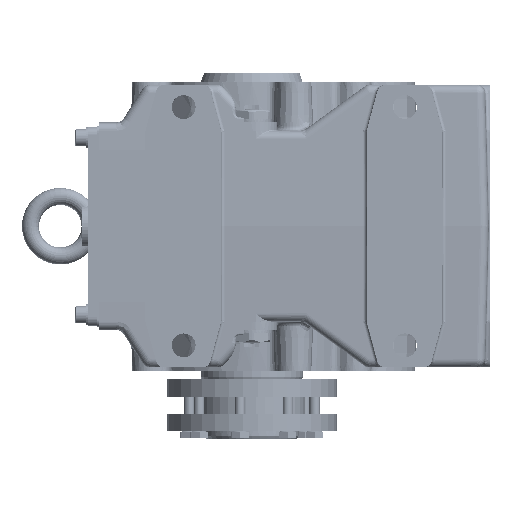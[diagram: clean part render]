
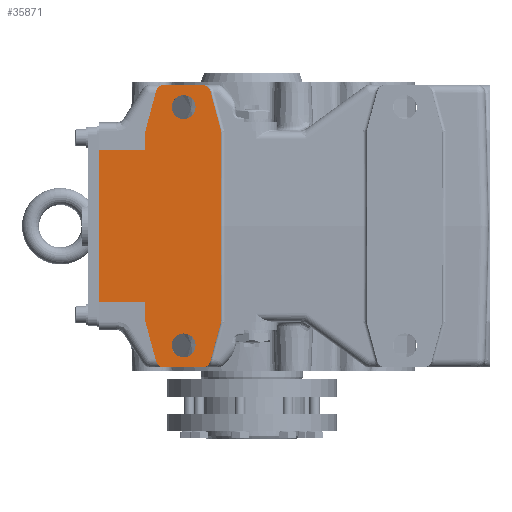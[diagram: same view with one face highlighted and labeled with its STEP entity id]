
A CAD part, left-side view. The second image highlights one B-rep face of the part: STEP entity #35871.
In plain terms, the highlighted planar face has unit normal (-1, 0, 0).
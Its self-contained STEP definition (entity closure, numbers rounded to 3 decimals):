
#23155=CARTESIAN_POINT('',(-90.0,90.0,-44.812));
#23156=VERTEX_POINT('',#23155);
#23163=CARTESIAN_POINT('',(-90.0,90.0,44.812));
#23164=VERTEX_POINT('',#23163);
#23165=CARTESIAN_POINT('',(-90.,90.0,44.812));
#23166=DIRECTION('',(0.0,0.0,-1.0));
#23167=VECTOR('',#23166,89.623);
#23168=LINE('',#23165,#23167);
#23169=EDGE_CURVE('',#23164,#23156,#23168,.T.);
#25421=CARTESIAN_POINT('',(-90.,40.0,-63.0));
#25422=VERTEX_POINT('',#25421);
#25423=CARTESIAN_POINT('',(-90.,40.0,-70.0));
#25424=DIRECTION('',(1.0,0.0,0.0));
#25425=DIRECTION('',(0.0,0.0,1.0));
#25426=AXIS2_PLACEMENT_3D('',#25423,#25424,#25425);
#25427=CIRCLE('',#25426,7.);
#25428=EDGE_CURVE('',#25422,#25422,#25427,.T.);
#25449=CARTESIAN_POINT('',(-90.,40.0,77.0));
#25450=VERTEX_POINT('',#25449);
#25451=CARTESIAN_POINT('',(-90.,40.0,70.0));
#25452=DIRECTION('',(1.0,0.0,0.0));
#25453=DIRECTION('',(0.0,0.0,1.0));
#25454=AXIS2_PLACEMENT_3D('',#25451,#25452,#25453);
#25455=CIRCLE('',#25454,7.);
#25456=EDGE_CURVE('',#25450,#25450,#25455,.T.);
#35673=CARTESIAN_POINT('',(-90.,-15.242,0.735));
#35674=DIRECTION('',(1.0,0.0,0.0));
#35675=DIRECTION('',(0.0,0.0,-1.0));
#35676=AXIS2_PLACEMENT_3D('',#35673,#35674,#35675);
#35677=PLANE('',#35676);
#35678=ORIENTED_EDGE('',*,*,#23169,.T.);
#35679=CARTESIAN_POINT('',(-90.,62.5,-44.812));
#35680=VERTEX_POINT('',#35679);
#35681=CARTESIAN_POINT('',(-90.0,62.5,-44.812));
#35682=DIRECTION('',(0.0,1.0,0.0));
#35683=VECTOR('',#35682,27.5);
#35684=LINE('',#35681,#35683);
#35685=EDGE_CURVE('',#35680,#23156,#35684,.T.);
#35686=ORIENTED_EDGE('',*,*,#35685,.F.);
#35687=CARTESIAN_POINT('',(-90.,62.5,-55.34));
#35688=VERTEX_POINT('',#35687);
#35689=CARTESIAN_POINT('',(-90.,62.5,-55.34));
#35690=DIRECTION('',(0.0,0.0,1.0));
#35691=VECTOR('',#35690,10.529);
#35692=LINE('',#35689,#35691);
#35693=EDGE_CURVE('',#35688,#35680,#35692,.T.);
#35694=ORIENTED_EDGE('',*,*,#35693,.F.);
#35695=CARTESIAN_POINT('',(-90.,62.329,-56.637));
#35696=VERTEX_POINT('',#35695);
#35697=CARTESIAN_POINT('',(-90.,57.5,-55.34));
#35698=DIRECTION('',(1.0,0.0,0.0));
#35699=DIRECTION('',(0.0,0.991,-0.131));
#35700=AXIS2_PLACEMENT_3D('',#35697,#35698,#35699);
#35701=CIRCLE('',#35700,5.);
#35702=EDGE_CURVE('',#35696,#35688,#35701,.T.);
#35703=ORIENTED_EDGE('',*,*,#35702,.F.);
#35704=CARTESIAN_POINT('',(-90.,56.244,-79.297));
#35705=VERTEX_POINT('',#35704);
#35706=CARTESIAN_POINT('',(-90.,56.244,-79.297));
#35707=DIRECTION('',(0.0,0.259,0.966));
#35708=VECTOR('',#35707,23.462);
#35709=LINE('',#35706,#35708);
#35710=EDGE_CURVE('',#35705,#35696,#35709,.T.);
#35711=ORIENTED_EDGE('',*,*,#35710,.F.);
#35712=CARTESIAN_POINT('',(-90.,51.415,-83.));
#35713=VERTEX_POINT('',#35712);
#35714=CARTESIAN_POINT('',(-90.,51.415,-78.));
#35715=DIRECTION('',(1.0,0.0,0.0));
#35716=DIRECTION('',(0.0,0.609,-0.794));
#35717=AXIS2_PLACEMENT_3D('',#35714,#35715,#35716);
#35718=CIRCLE('',#35717,5.);
#35719=EDGE_CURVE('',#35713,#35705,#35718,.T.);
#35720=ORIENTED_EDGE('',*,*,#35719,.F.);
#35721=CARTESIAN_POINT('',(-90.,29.085,-83.));
#35722=VERTEX_POINT('',#35721);
#35723=CARTESIAN_POINT('',(-90.,29.085,-83.));
#35724=DIRECTION('',(0.0,1.0,0.0));
#35725=VECTOR('',#35724,22.331);
#35726=LINE('',#35723,#35725);
#35727=EDGE_CURVE('',#35722,#35713,#35726,.T.);
#35728=ORIENTED_EDGE('',*,*,#35727,.F.);
#35729=CARTESIAN_POINT('',(-90.,24.256,-79.297));
#35730=VERTEX_POINT('',#35729);
#35731=CARTESIAN_POINT('',(-90.,29.085,-78.));
#35732=DIRECTION('',(1.0,0.0,0.0));
#35733=DIRECTION('',(0.0,-0.609,-0.794));
#35734=AXIS2_PLACEMENT_3D('',#35731,#35732,#35733);
#35735=CIRCLE('',#35734,5.0);
#35736=EDGE_CURVE('',#35730,#35722,#35735,.T.);
#35737=ORIENTED_EDGE('',*,*,#35736,.F.);
#35738=CARTESIAN_POINT('',(-90.,18.171,-56.637));
#35739=VERTEX_POINT('',#35738);
#35740=CARTESIAN_POINT('',(-90.0,18.171,-56.637));
#35741=DIRECTION('',(0.0,0.259,-0.966));
#35742=VECTOR('',#35741,23.462);
#35743=LINE('',#35740,#35742);
#35744=EDGE_CURVE('',#35739,#35730,#35743,.T.);
#35745=ORIENTED_EDGE('',*,*,#35744,.F.);
#35746=CARTESIAN_POINT('',(-90.,18.,-55.34));
#35747=VERTEX_POINT('',#35746);
#35748=CARTESIAN_POINT('',(-90.,23.,-55.34));
#35749=DIRECTION('',(1.0,0.0,0.0));
#35750=DIRECTION('',(0.0,-0.991,-0.131));
#35751=AXIS2_PLACEMENT_3D('',#35748,#35749,#35750);
#35752=CIRCLE('',#35751,5.0);
#35753=EDGE_CURVE('',#35747,#35739,#35752,.T.);
#35754=ORIENTED_EDGE('',*,*,#35753,.F.);
#35755=CARTESIAN_POINT('',(-90.,18.,-17.838));
#35756=VERTEX_POINT('',#35755);
#35757=CARTESIAN_POINT('',(-90.0,18.,-17.838));
#35758=DIRECTION('',(0.0,0.0,-1.0));
#35759=VECTOR('',#35758,37.503);
#35760=LINE('',#35757,#35759);
#35761=EDGE_CURVE('',#35756,#35747,#35760,.T.);
#35762=ORIENTED_EDGE('',*,*,#35761,.F.);
#35763=CARTESIAN_POINT('',(-90.,17.945,0.));
#35764=VERTEX_POINT('',#35763);
#35765=CARTESIAN_POINT('',(-90.,16.,-17.838));
#35766=DIRECTION('',(-1.0,0.0,0.0));
#35767=DIRECTION('',(0.0,0.0,1.0));
#35768=AXIS2_PLACEMENT_3D('',#35765,#35766,#35767);
#35769=ELLIPSE('',#35768,76.403,2.0);
#35770=EDGE_CURVE('',#35764,#35756,#35769,.T.);
#35771=ORIENTED_EDGE('',*,*,#35770,.F.);
#35772=CARTESIAN_POINT('',(-90.,18.,17.838));
#35773=VERTEX_POINT('',#35772);
#35774=CARTESIAN_POINT('',(-90.,16.,17.838));
#35775=DIRECTION('',(-1.0,0.0,0.0));
#35776=DIRECTION('',(0.0,0.0,-1.0));
#35777=AXIS2_PLACEMENT_3D('',#35774,#35775,#35776);
#35778=ELLIPSE('',#35777,76.403,2.0);
#35779=EDGE_CURVE('',#35773,#35764,#35778,.T.);
#35780=ORIENTED_EDGE('',*,*,#35779,.F.);
#35781=CARTESIAN_POINT('',(-90.,18.,55.34));
#35782=VERTEX_POINT('',#35781);
#35783=CARTESIAN_POINT('',(-90.0,18.,55.34));
#35784=DIRECTION('',(0.0,0.0,-1.0));
#35785=VECTOR('',#35784,37.503);
#35786=LINE('',#35783,#35785);
#35787=EDGE_CURVE('',#35782,#35773,#35786,.T.);
#35788=ORIENTED_EDGE('',*,*,#35787,.F.);
#35789=CARTESIAN_POINT('',(-90.,18.171,56.637));
#35790=VERTEX_POINT('',#35789);
#35791=CARTESIAN_POINT('',(-90.,23.,55.34));
#35792=DIRECTION('',(1.0,0.0,0.0));
#35793=DIRECTION('',(0.0,-0.991,0.131));
#35794=AXIS2_PLACEMENT_3D('',#35791,#35792,#35793);
#35795=CIRCLE('',#35794,5.0);
#35796=EDGE_CURVE('',#35790,#35782,#35795,.T.);
#35797=ORIENTED_EDGE('',*,*,#35796,.F.);
#35798=CARTESIAN_POINT('',(-90.,24.256,79.297));
#35799=VERTEX_POINT('',#35798);
#35800=CARTESIAN_POINT('',(-90.0,24.256,79.297));
#35801=DIRECTION('',(0.0,-0.259,-0.966));
#35802=VECTOR('',#35801,23.462);
#35803=LINE('',#35800,#35802);
#35804=EDGE_CURVE('',#35799,#35790,#35803,.T.);
#35805=ORIENTED_EDGE('',*,*,#35804,.F.);
#35806=CARTESIAN_POINT('',(-90.,29.085,83.));
#35807=VERTEX_POINT('',#35806);
#35808=CARTESIAN_POINT('',(-90.,29.085,78.));
#35809=DIRECTION('',(1.0,0.0,0.0));
#35810=DIRECTION('',(0.0,-0.609,0.794));
#35811=AXIS2_PLACEMENT_3D('',#35808,#35809,#35810);
#35812=CIRCLE('',#35811,5.0);
#35813=EDGE_CURVE('',#35807,#35799,#35812,.T.);
#35814=ORIENTED_EDGE('',*,*,#35813,.F.);
#35815=CARTESIAN_POINT('',(-90.,51.415,83.));
#35816=VERTEX_POINT('',#35815);
#35817=CARTESIAN_POINT('',(-90.,51.415,83.));
#35818=DIRECTION('',(0.0,-1.0,0.0));
#35819=VECTOR('',#35818,22.331);
#35820=LINE('',#35817,#35819);
#35821=EDGE_CURVE('',#35816,#35807,#35820,.T.);
#35822=ORIENTED_EDGE('',*,*,#35821,.F.);
#35823=CARTESIAN_POINT('',(-90.,56.244,79.297));
#35824=VERTEX_POINT('',#35823);
#35825=CARTESIAN_POINT('',(-90.,51.415,78.));
#35826=DIRECTION('',(1.0,0.0,0.0));
#35827=DIRECTION('',(0.0,0.609,0.794));
#35828=AXIS2_PLACEMENT_3D('',#35825,#35826,#35827);
#35829=CIRCLE('',#35828,5.);
#35830=EDGE_CURVE('',#35824,#35816,#35829,.T.);
#35831=ORIENTED_EDGE('',*,*,#35830,.F.);
#35832=CARTESIAN_POINT('',(-90.,62.329,56.637));
#35833=VERTEX_POINT('',#35832);
#35834=CARTESIAN_POINT('',(-90.,62.329,56.637));
#35835=DIRECTION('',(0.0,-0.259,0.966));
#35836=VECTOR('',#35835,23.462);
#35837=LINE('',#35834,#35836);
#35838=EDGE_CURVE('',#35833,#35824,#35837,.T.);
#35839=ORIENTED_EDGE('',*,*,#35838,.F.);
#35840=CARTESIAN_POINT('',(-90.,62.5,55.34));
#35841=VERTEX_POINT('',#35840);
#35842=CARTESIAN_POINT('',(-90.,57.5,55.34));
#35843=DIRECTION('',(1.0,0.0,0.0));
#35844=DIRECTION('',(0.0,0.991,0.131));
#35845=AXIS2_PLACEMENT_3D('',#35842,#35843,#35844);
#35846=CIRCLE('',#35845,5.0);
#35847=EDGE_CURVE('',#35841,#35833,#35846,.T.);
#35848=ORIENTED_EDGE('',*,*,#35847,.F.);
#35849=CARTESIAN_POINT('',(-90.,62.5,44.812));
#35850=VERTEX_POINT('',#35849);
#35851=CARTESIAN_POINT('',(-90.,62.5,44.812));
#35852=DIRECTION('',(0.0,0.0,1.0));
#35853=VECTOR('',#35852,10.529);
#35854=LINE('',#35851,#35853);
#35855=EDGE_CURVE('',#35850,#35841,#35854,.T.);
#35856=ORIENTED_EDGE('',*,*,#35855,.F.);
#35857=CARTESIAN_POINT('',(-90.0,90.0,44.812));
#35858=DIRECTION('',(0.0,-1.0,0.0));
#35859=VECTOR('',#35858,27.5);
#35860=LINE('',#35857,#35859);
#35861=EDGE_CURVE('',#23164,#35850,#35860,.T.);
#35862=ORIENTED_EDGE('',*,*,#35861,.F.);
#35863=EDGE_LOOP('',(#35678,#35686,#35694,#35703,#35711,#35720,#35728,#35737,#35745,#35754,#35762,#35771,#35780,#35788,#35797,#35805,#35814,#35822,#35831,#35839,#35848,#35856,#35862));
#35864=FACE_OUTER_BOUND('',#35863,.T.);
#35865=ORIENTED_EDGE('',*,*,#25428,.T.);
#35866=EDGE_LOOP('',(#35865));
#35867=FACE_BOUND('',#35866,.T.);
#35868=ORIENTED_EDGE('',*,*,#25456,.T.);
#35869=EDGE_LOOP('',(#35868));
#35870=FACE_BOUND('',#35869,.T.);
#35871=ADVANCED_FACE('',(#35864,#35867,#35870),#35677,.F.);
